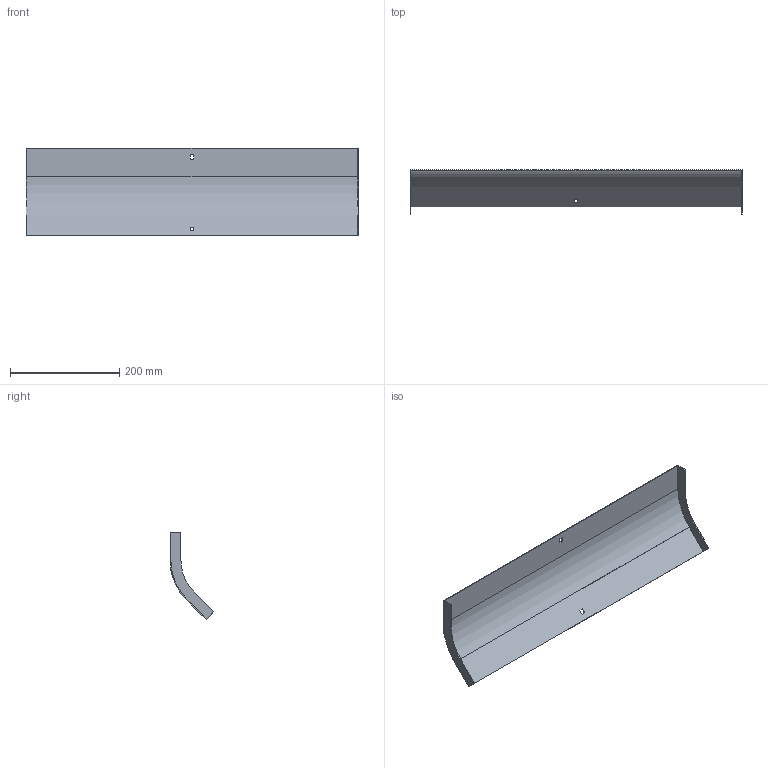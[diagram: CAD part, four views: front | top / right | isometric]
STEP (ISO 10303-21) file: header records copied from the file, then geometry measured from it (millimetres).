
FILE_DESCRIPTION (( 'STEP AP214' ), '1' );
FILE_NAME ('34G1B600.step', '2025-02-21T12:43:08', ( '' ), ( '' ), 'SwSTEP 2.0', 'SolidWorks 2023', '' );
FILE_SCHEMA (( 'AUTOMOTIVE_DESIGN' ));
Length unit declared in the file: millimetre
Products named in the file (1): 34G1B600
Bounding box: 607 x 80.32 x 159.76 mm (x, y, z)
Volume: 175402.4 mm3; surface area: 236397.9 mm2
Topology: 1 solids, 1 shells, 26 faces, 72 edges, 48 vertices
Faces by surface type: plane 22, cylinder 4
Entity records: 855 total; most frequent: CARTESIAN_POINT 147, ORIENTED_EDGE 144, DIRECTION 134, EDGE_CURVE 72, LINE 64, VECTOR 64, VERTEX_POINT 48, AXIS2_PLACEMENT_3D 35
